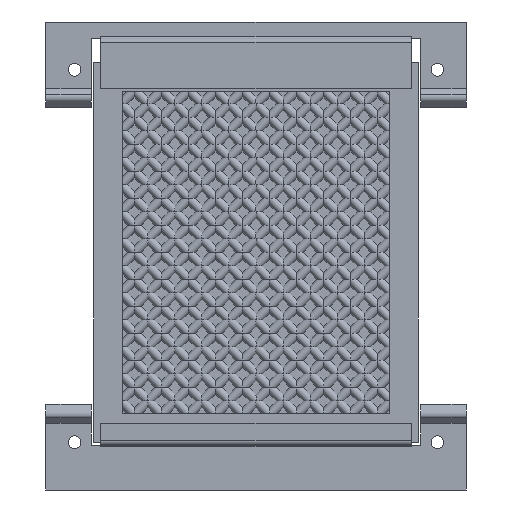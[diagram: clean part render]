
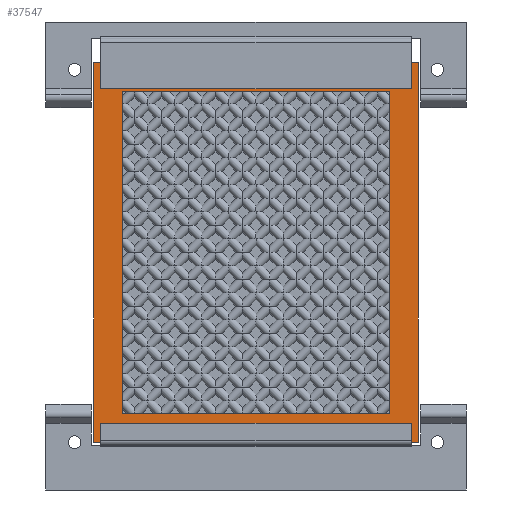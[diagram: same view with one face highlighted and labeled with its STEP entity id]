
A CAD part, front view. The second image highlights one B-rep face of the part: STEP entity #37547.
In plain terms, the highlighted planar face has unit normal (0, -1, 0) as drawn and (0, 0, 1) by its records, which use the part's own axes.
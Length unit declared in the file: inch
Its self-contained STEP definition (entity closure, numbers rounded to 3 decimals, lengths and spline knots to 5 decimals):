
#4508=DIRECTION('',(1.,0.,0.));
#4509=VECTOR('',#4508,4.25);
#4510=CARTESIAN_POINT('',(-2.125,-2.485,0.3));
#4511=LINE('',#4510,#4509);
#4512=DIRECTION('',(0.,-1.,0.));
#4513=VECTOR('',#4512,4.97);
#4514=CARTESIAN_POINT('',(-2.125,2.485,0.3));
#4515=LINE('',#4514,#4513);
#4516=DIRECTION('',(-1.,0.,0.));
#4517=VECTOR('',#4516,4.25);
#4518=CARTESIAN_POINT('',(2.125,2.485,0.3));
#4519=LINE('',#4518,#4517);
#4520=DIRECTION('',(0.,1.,0.));
#4521=VECTOR('',#4520,4.97);
#4522=CARTESIAN_POINT('',(2.125,-2.485,0.3));
#4523=LINE('',#4522,#4521);
#4524=DIRECTION('',(0.,-1.,0.));
#4525=VECTOR('',#4524,4.22);
#4526=CARTESIAN_POINT('',(-1.75,2.11,0.3));
#4527=LINE('',#4526,#4525);
#4528=DIRECTION('',(1.,0.,0.));
#4529=VECTOR('',#4528,3.5);
#4530=CARTESIAN_POINT('',(-1.75,-2.11,0.3));
#4531=LINE('',#4530,#4529);
#4532=DIRECTION('',(0.,1.,0.));
#4533=VECTOR('',#4532,4.22);
#4534=CARTESIAN_POINT('',(1.75,-2.11,0.3));
#4535=LINE('',#4534,#4533);
#4536=DIRECTION('',(-1.,0.,0.));
#4537=VECTOR('',#4536,3.5);
#4538=CARTESIAN_POINT('',(1.75,2.11,0.3));
#4539=LINE('',#4538,#4537);
#32780=CARTESIAN_POINT('',(-2.125,-2.485,0.3));
#32781=CARTESIAN_POINT('',(2.125,-2.485,0.3));
#32782=VERTEX_POINT('',#32780);
#32783=VERTEX_POINT('',#32781);
#32784=CARTESIAN_POINT('',(2.125,2.485,0.3));
#32785=VERTEX_POINT('',#32784);
#32786=CARTESIAN_POINT('',(-2.125,2.485,0.3));
#32787=VERTEX_POINT('',#32786);
#32788=CARTESIAN_POINT('',(-1.75,2.11,0.3));
#32789=CARTESIAN_POINT('',(-1.75,-2.11,0.3));
#32790=VERTEX_POINT('',#32788);
#32791=VERTEX_POINT('',#32789);
#32792=CARTESIAN_POINT('',(1.75,-2.11,0.3));
#32793=VERTEX_POINT('',#32792);
#32794=CARTESIAN_POINT('',(1.75,2.11,0.3));
#32795=VERTEX_POINT('',#32794);
#37526=CARTESIAN_POINT('',(0.,0.,0.3));
#37527=DIRECTION('',(0.,0.,1.));
#37528=DIRECTION('',(1.,0.,0.));
#37529=AXIS2_PLACEMENT_3D('',#37526,#37527,#37528);
#37530=PLANE('',#37529);
#37531=ORIENTED_EDGE('',*,*,#37478,.F.);
#37532=ORIENTED_EDGE('',*,*,#37493,.F.);
#37533=ORIENTED_EDGE('',*,*,#37507,.F.);
#37534=ORIENTED_EDGE('',*,*,#37520,.F.);
#37535=EDGE_LOOP('',(#37531,#37532,#37533,#37534));
#37536=FACE_OUTER_BOUND('',#37535,.F.);
#37538=ORIENTED_EDGE('',*,*,#37537,.T.);
#37540=ORIENTED_EDGE('',*,*,#37539,.T.);
#37542=ORIENTED_EDGE('',*,*,#37541,.T.);
#37544=ORIENTED_EDGE('',*,*,#37543,.T.);
#37545=EDGE_LOOP('',(#37538,#37540,#37542,#37544));
#37546=FACE_BOUND('',#37545,.F.);
#37478=EDGE_CURVE('',#32782,#32783,#4511,.T.);
#37493=EDGE_CURVE('',#32787,#32782,#4515,.T.);
#37507=EDGE_CURVE('',#32785,#32787,#4519,.T.);
#37520=EDGE_CURVE('',#32783,#32785,#4523,.T.);
#37537=EDGE_CURVE('',#32790,#32791,#4527,.T.);
#37539=EDGE_CURVE('',#32791,#32793,#4531,.T.);
#37541=EDGE_CURVE('',#32793,#32795,#4535,.T.);
#37543=EDGE_CURVE('',#32795,#32790,#4539,.T.);
#37547=ADVANCED_FACE('',(#37536,#37546),#37530,.T.);
